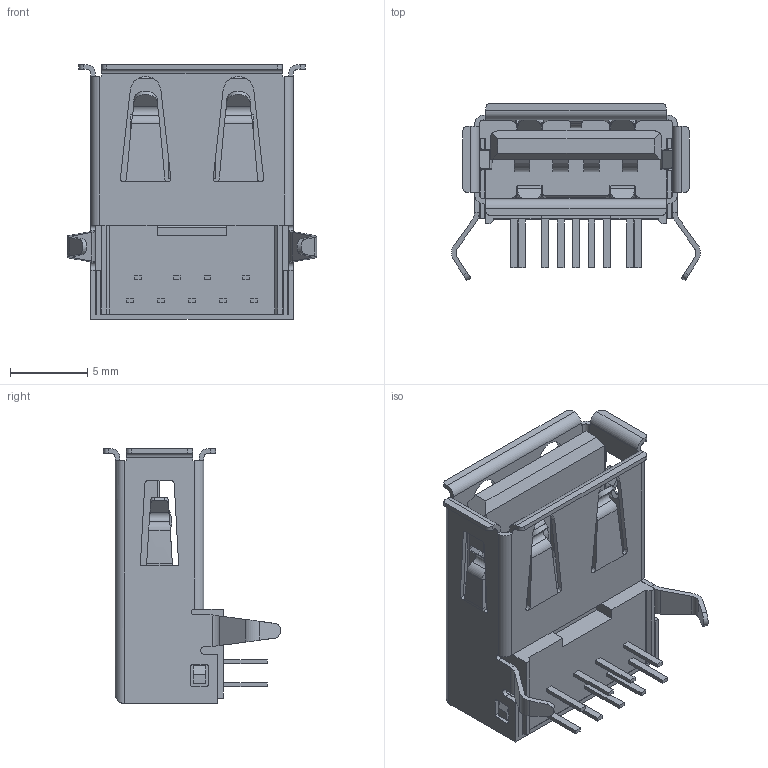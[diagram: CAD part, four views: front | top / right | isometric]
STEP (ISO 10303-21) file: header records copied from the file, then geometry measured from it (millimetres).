
FILE_DESCRIPTION((''),'2;1');
FILE_NAME('C-1932258-1','2018-02-23T',('workeradm'),('TE Connectivity Ltd.'),'CREO PARAMETRIC BY PTC INC, 2016050','CREO PARAMETRIC BY PTC INC, 2016050','');
FILE_SCHEMA(('AUTOMOTIVE_DESIGN { 1 0 10303 214 1 1 1 1 }'));
Length unit declared in the file: millimetre
Products named in the file (1): C-1932258-1
Bounding box: 16.1 x 11.45 x 16.48 mm (x, y, z)
Volume: 834.2 mm3; surface area: 1703.2 mm2
Topology: 1 solids, 1 shells, 414 faces, 1100 edges, 692 vertices
Faces by surface type: plane 249, cylinder 107, bspline 58
Entity records: 15976 total; most frequent: CARTESIAN_POINT 6108, ORIENTED_EDGE 2200, DIRECTION 1746, EDGE_CURVE 1100, VECTOR 782, LINE 782, VERTEX_POINT 692, AXIS2_PLACEMENT_3D 482
